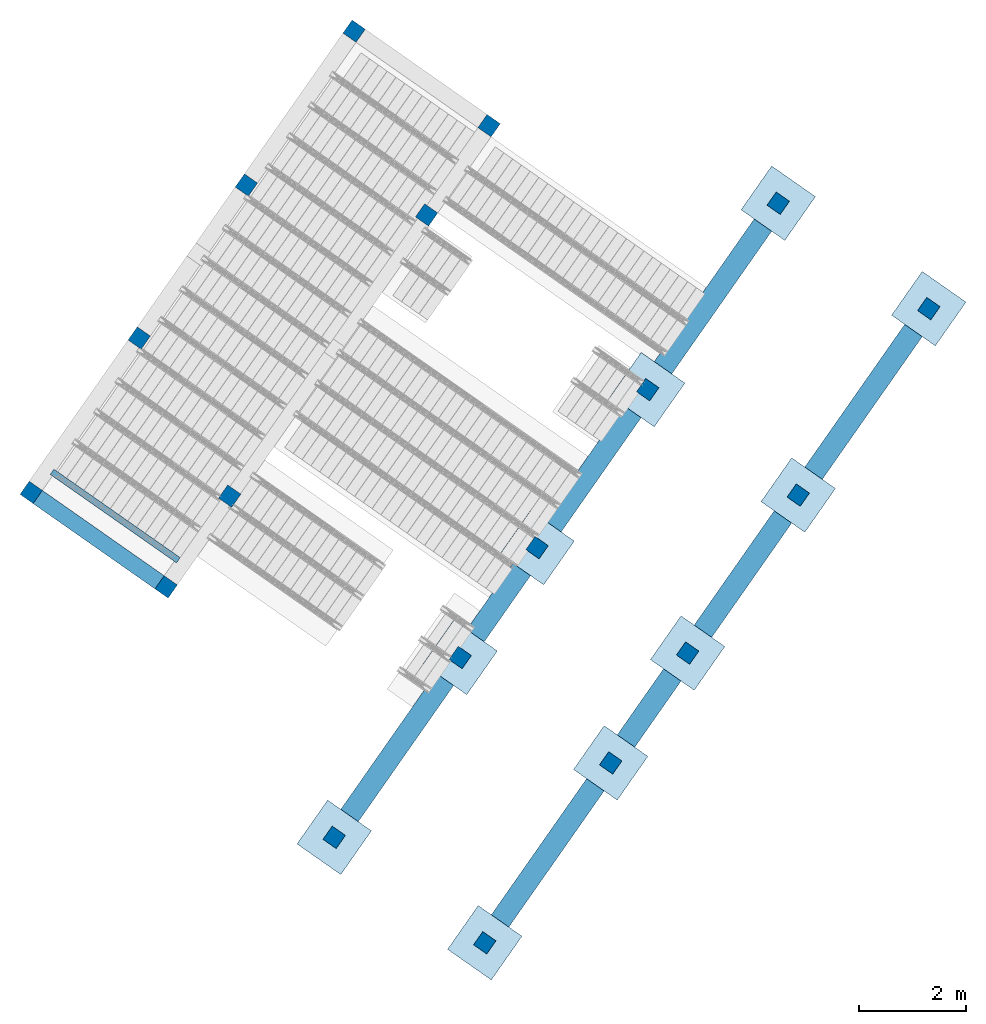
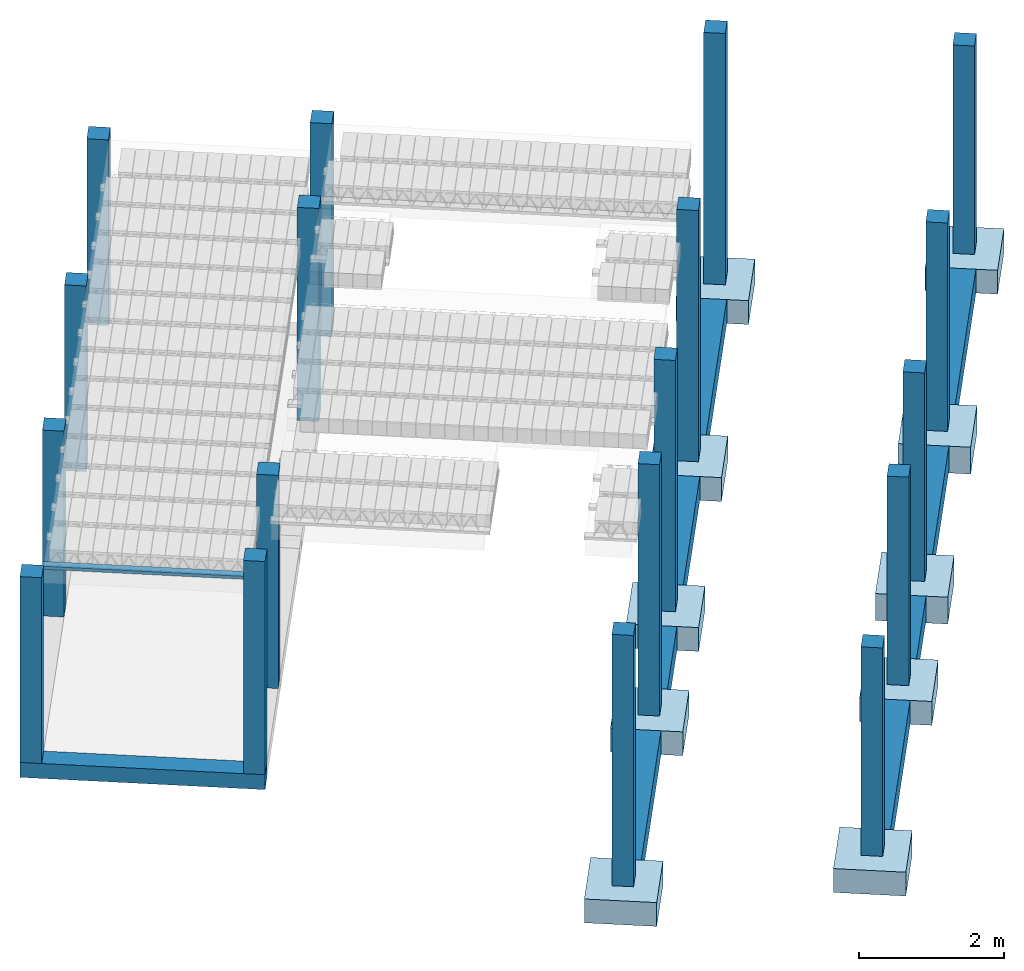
# One storey, part 1 of 80: 18 columns, 18 footings, 2 beams.
"""IFC2X3 building model written with IfcOpenShell, lengths in metres."""

import ifcopenshell
import ifcopenshell.guid

model = None  # the IFC model being written
_history = None  # IfcOwnerHistory: only IFC2X3 demands one
_inside = {}  # id of a spatial element -> (the spatial element, [elements in it])
_under = {}  # id of a project, library or spatial element -> (it, [spatial elements below it])
_declared = {}  # id of a project -> (the project, [libraries it declares])
_typed = {}  # id of a type object -> (the type object, [elements of that type])
_made_of = {}  # id of a material, layer set ... -> (it, [elements and type objects made of it])


def new_model(schema):
    """Start an empty IFC model of exactly this schema.

    Asked for "IFC4X3", IfcOpenShell would pick the latest addendum, in which some entities
    have other attributes; the version numbers below select the first issue.
    IFC2X3 requires an IfcOwnerHistory on every rooted entity: one is made here for all.
    """
    global model, _history
    if schema == "IFC4X3":
        model = ifcopenshell.file(schema_version=(4, 3, 0, 0))
    else:
        model = ifcopenshell.file(schema=schema)
    _inside.clear()
    _under.clear()
    _declared.clear()
    _typed.clear()
    _made_of.clear()
    _history = None
    if model.schema == "IFC2X3":
        org = make("IfcOrganization", Name="unknown")
        user = make(
            "IfcPersonAndOrganization",
            ThePerson=make("IfcPerson", FamilyName="unknown"),
            TheOrganization=org,
        )
        app = make(
            "IfcApplication",
            ApplicationDeveloper=org,
            Version="unknown",
            ApplicationFullName="unknown",
            ApplicationIdentifier="unknown",
        )
        _history = make(
            "IfcOwnerHistory",
            OwningUser=user,
            OwningApplication=app,
            ChangeAction="ADDED",
            CreationDate=0,
        )
    return model


def make(cls, **values):
    """One entity of the class cls with the attributes given. An attribute that is None is left unset."""
    return model.create_entity(
        cls, **{name: value for name, value in values.items() if value is not None}
    )


def entity(cls, *values):
    """Any entity or typed value of the class cls, its attributes in the order of the schema. None: left unset."""
    e = model.create_entity(cls)
    for i, value in enumerate(values):
        if value is not None:
            e[i] = value
    return e


def rooted(cls, **values):
    """An entity with a GlobalId (a new one), such as an element, a storey or a relation."""
    return make(cls, GlobalId=ifcopenshell.guid.new(), OwnerHistory=_history, **values)


def si_unit(unit_type, name, prefix=None):
    """IfcSIUnit, for example si_unit("LENGTHUNIT", "METRE", prefix="MILLI")."""
    return make("IfcSIUnit", UnitType=unit_type, Prefix=prefix, Name=name)


def converted_unit(unit_type, name, factor, base, dimensions=None, offset=None):
    """IfcConversionBasedUnit, such as the inch: factor (a typed value) times the base unit."""
    return make(
        "IfcConversionBasedUnit"
        if offset is None
        else "IfcConversionBasedUnitWithOffset",
        ConversionOffset=offset,
        Dimensions=None
        if dimensions is None
        else entity("IfcDimensionalExponents", *dimensions),
        UnitType=unit_type,
        Name=name,
        ConversionFactor=make(
            "IfcMeasureWithUnit", ValueComponent=factor, UnitComponent=base
        ),
    )


def derived_unit(unit_type, elements):
    """IfcDerivedUnit: a product of units, each with its exponent."""
    return make(
        "IfcDerivedUnit",
        Elements=[
            make("IfcDerivedUnitElement", Unit=unit, Exponent=power)
            for unit, power in elements
        ],
        UnitType=unit_type,
    )


def assignment(units):
    """IfcUnitAssignment: the units of a project."""
    return None if units is None else make("IfcUnitAssignment", Units=units)


def point(xyz):
    """IfcCartesianPoint."""
    return None if xyz is None else make("IfcCartesianPoint", Coordinates=xyz)


def direction(xyz):
    """IfcDirection."""
    return None if xyz is None else make("IfcDirection", DirectionRatios=xyz)


def frame(location, z_axis=None, x_axis=None):
    """IfcAxis2Placement3D, a coordinate frame: its origin and axes. An axis left out is left unset."""
    return make(
        "IfcAxis2Placement3D",
        Location=point(location),
        Axis=direction(z_axis),
        RefDirection=direction(x_axis),
    )


def frame_2d(location, x_axis=None):
    """IfcAxis2Placement2D, a coordinate frame in the plane: its origin and x axis."""
    return make(
        "IfcAxis2Placement2D", Location=point(location), RefDirection=direction(x_axis)
    )


def origin():
    """The frame at (0, 0, 0) with its axes left unset."""
    return frame((0.0, 0.0, 0.0))


def origin_2d_with_axis():
    """The frame at (0, 0) in the plane with the x axis (1, 0) written out."""
    return frame_2d((0.0, 0.0), x_axis=(1.0, 0.0))


def place(relative_to, where):
    """IfcLocalPlacement: puts the frame where relative to a parent placement (None: the world)."""
    return make(
        "IfcLocalPlacement", PlacementRelTo=relative_to, RelativePlacement=where
    )


def context(
    kind, dimensions, precision=None, world=None, true_north=None, identifier=None
):
    """IfcGeometricRepresentationContext, for example the 3D "Model" context."""
    return make(
        "IfcGeometricRepresentationContext",
        ContextIdentifier=identifier,
        ContextType=kind,
        CoordinateSpaceDimension=dimensions,
        Precision=precision,
        WorldCoordinateSystem=world,
        TrueNorth=true_north,
    )


def subcontext(parent, identifier, kind, view, scale=None):
    """IfcGeometricRepresentationSubContext, for example "Body" below "Model"."""
    return make(
        "IfcGeometricRepresentationSubContext",
        ContextIdentifier=identifier,
        ContextType=kind,
        ParentContext=parent,
        TargetScale=scale,
        TargetView=view,
    )


def project(units=None, contexts=None):
    """IfcProject with its units and contexts."""
    return rooted(
        "IfcProject",
        Name="project",
        RepresentationContexts=contexts,
        UnitsInContext=assignment(units),
    )


def spatial(cls, under=None, at=None, **own):
    """A site, building, storey or space (cls), placed at a placement, below another one or the project."""
    s = rooted(cls, ObjectPlacement=at, **own)
    if under is not None:
        _under.setdefault(under.id(), (under, []))[1].append(s)
    return s


def profile(cls, at=None, kind="AREA", **sizes):
    """A parametric profile (cls). Its sizes go by their IFC names, for example OverallWidth=200.0."""
    return make(cls, ProfileType=kind, Position=at, **sizes)


def rectangle(**sizes):
    """IfcRectangleProfileDef."""
    return profile("IfcRectangleProfileDef", **sizes)


def extrude(swept, where, along, depth):
    """IfcExtrudedAreaSolid: the profile swept, set in the frame where, extruded along a direction by depth."""
    return make(
        "IfcExtrudedAreaSolid",
        SweptArea=swept,
        Position=where,
        ExtrudedDirection=direction(along),
        Depth=depth,
    )


def shape(context_of_items, identifier, shape_type, items):
    """IfcShapeRepresentation: the items that make up one representation, for example the "Body"."""
    return make(
        "IfcShapeRepresentation",
        ContextOfItems=context_of_items,
        RepresentationIdentifier=identifier,
        RepresentationType=shape_type,
        Items=items,
    )


def material(Name=None, Category=None):
    """IfcMaterial."""
    return make("IfcMaterial", Name=Name, Category=Category)


def made_of(thing, what):
    """Note that an element or type object is made of a material, layer set ...; save() writes the relation."""
    if what is not None:
        _made_of.setdefault(what.id(), (what, []))[1].append(thing)
    return thing


def type_object(cls, material=None, **own):
    """A type object (cls), such as IfcWallType, which elements share."""
    return made_of(rooted(cls, **own), material)


def element(
    cls,
    number,
    at=None,
    inside=None,
    cuts=None,
    type_object=None,
    material=None,
    context=None,
    identifier="Body",
    shape_type=None,
    held_by="IfcProductDefinitionShape",
    body=None,
    shapes=None,
    **own,
):
    """One element of the class cls, such as IfcWall. Its Tag is "e" and its number.

    at: its placement. inside: the storey or other place that contains it. cuts: it is an
    opening in that element (IfcRelVoidsElement). A single representation is given by context,
    identifier, shape_type and body (its items); several are given by shapes. held_by: the class
    of the entity that holds the representations. save() writes the other relations.
    """
    e = rooted(cls, Tag="e%d" % number, ObjectPlacement=at, **own)
    if body is not None:
        shapes = [shape(context, identifier, shape_type, body)]
    if shapes is not None:
        e.Representation = make(held_by, Representations=shapes)
    if inside is not None:
        _inside.setdefault(inside.id(), (inside, []))[1].append(e)
    if cuts is not None:
        rooted(
            "IfcRelVoidsElement", RelatingBuildingElement=cuts, RelatedOpeningElement=e
        )
    if type_object is not None:
        _typed.setdefault(type_object.id(), (type_object, []))[1].append(e)
    return made_of(e, material)


def aggregate(whole, parts):
    """IfcRelAggregates: a whole, such as a stair, and the parts it consists of."""
    return rooted("IfcRelAggregates", RelatingObject=whole, RelatedObjects=parts)


def save(model, path):
    """Write the relations noted so far, then the file.

    IfcRelAggregates (storeys below a building ...), IfcRelContainedInSpatialStructure (elements
    in a storey), IfcRelDefinesByType, IfcRelAssociatesMaterial and IfcRelDeclares: one each for
    every whole, place, type object, material and project.
    """
    for whole, parts in _under.values():
        aggregate(whole, parts)
    for where, things in _inside.values():
        rooted(
            "IfcRelContainedInSpatialStructure",
            RelatedElements=things,
            RelatingStructure=where,
        )
    for kind, things in _typed.values():
        rooted("IfcRelDefinesByType", RelatedObjects=things, RelatingType=kind)
    for what, things in _made_of.values():
        rooted("IfcRelAssociatesMaterial", RelatedObjects=things, RelatingMaterial=what)
    for by, libraries in _declared.values():
        rooted("IfcRelDeclares", RelatingContext=by, RelatedDefinitions=libraries)
    model.write(path)


model = new_model("IFC2X3")

# Units and contexts
model_context = context("Model", 3, precision=1e-05, world=origin(), true_north=direction((6.123031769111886e-17, 1.0)))
body_context = subcontext(model_context, "Body", "Model", "MODEL_VIEW")
ifc_project = project(units=[si_unit("LENGTHUNIT", "METRE"), si_unit("AREAUNIT", "SQUARE_METRE"), si_unit("VOLUMEUNIT", "CUBIC_METRE"), converted_unit("PLANEANGLEUNIT", "DEGREE", entity("IfcPlaneAngleMeasure", 0.017453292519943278), si_unit("PLANEANGLEUNIT", "RADIAN"), dimensions=[0, 0, 0, 0, 0, 0, 0]), si_unit("MASSUNIT", "GRAM", prefix="KILO"), derived_unit("MASSDENSITYUNIT", [(si_unit("MASSUNIT", "GRAM", prefix="KILO"), 1), (si_unit("LENGTHUNIT", "METRE"), -3)]), derived_unit("IONCONCENTRATIONUNIT", [(si_unit("MASSUNIT", "GRAM", prefix="KILO"), 1), (si_unit("LENGTHUNIT", "METRE"), -3)]), derived_unit("MOMENTOFINERTIAUNIT", [(si_unit("LENGTHUNIT", "METRE"), 4)]), si_unit("TIMEUNIT", "SECOND"), si_unit("FREQUENCYUNIT", "HERTZ"), si_unit("THERMODYNAMICTEMPERATUREUNIT", "DEGREE_CELSIUS"), derived_unit("THERMALTRANSMITTANCEUNIT", [(si_unit("MASSUNIT", "GRAM", prefix="KILO"), 1), (si_unit("THERMODYNAMICTEMPERATUREUNIT", "KELVIN"), -1), (si_unit("TIMEUNIT", "SECOND"), -3)]), derived_unit("THERMALCONDUCTANCEUNIT", [(si_unit("MASSUNIT", "GRAM", prefix="KILO"), 1), (si_unit("THERMODYNAMICTEMPERATUREUNIT", "KELVIN"), -1), (si_unit("TIMEUNIT", "SECOND"), -3), (si_unit("LENGTHUNIT", "METRE"), 1)]), derived_unit("VOLUMETRICFLOWRATEUNIT", [(si_unit("LENGTHUNIT", "METRE", prefix="DECI"), 3), (si_unit("TIMEUNIT", "SECOND"), -1)]), derived_unit("MASSFLOWRATEUNIT", [(si_unit("MASSUNIT", "GRAM", prefix="KILO"), 1), (si_unit("TIMEUNIT", "SECOND"), -1)]), derived_unit("ROTATIONALFREQUENCYUNIT", [(si_unit("TIMEUNIT", "SECOND"), -1)]), si_unit("ELECTRICCURRENTUNIT", "AMPERE"), si_unit("ELECTRICVOLTAGEUNIT", "VOLT"), si_unit("POWERUNIT", "WATT"), si_unit("FORCEUNIT", "NEWTON", prefix="KILO"), si_unit("ILLUMINANCEUNIT", "LUX"), si_unit("LUMINOUSFLUXUNIT", "LUMEN"), si_unit("LUMINOUSINTENSITYUNIT", "CANDELA"), si_unit("ENERGYUNIT", "JOULE"), derived_unit("USERDEFINED", [(si_unit("MASSUNIT", "GRAM", prefix="KILO"), -1), (si_unit("LENGTHUNIT", "METRE"), -2), (si_unit("TIMEUNIT", "SECOND"), 3), (si_unit("LUMINOUSFLUXUNIT", "LUMEN"), 1)]), derived_unit("USERDEFINED", [(si_unit("MASSUNIT", "GRAM", prefix="KILO"), 1), (si_unit("TIMEUNIT", "SECOND"), -3), (si_unit("LENGTHUNIT", "METRE"), 3), (si_unit("ELECTRICCURRENTUNIT", "AMPERE"), -2)]), derived_unit("SOUNDPOWERUNIT", [(si_unit("MASSUNIT", "GRAM", prefix="KILO"), 1), (si_unit("TIMEUNIT", "SECOND"), -3), (si_unit("LENGTHUNIT", "METRE"), 2)]), derived_unit("SOUNDPRESSUREUNIT", [(si_unit("MASSUNIT", "GRAM", prefix="KILO"), 1), (si_unit("LENGTHUNIT", "METRE"), -1), (si_unit("TIMEUNIT", "SECOND"), -2)]), derived_unit("LINEARVELOCITYUNIT", [(si_unit("LENGTHUNIT", "METRE"), 1), (si_unit("TIMEUNIT", "SECOND"), -1)]), si_unit("PRESSUREUNIT", "PASCAL"), derived_unit("USERDEFINED", [(si_unit("MASSUNIT", "GRAM", prefix="KILO"), 1), (si_unit("LENGTHUNIT", "METRE"), -2), (si_unit("TIMEUNIT", "SECOND"), -2)]), derived_unit("LINEARFORCEUNIT", [(si_unit("MASSUNIT", "GRAM", prefix="KILO"), 1), (si_unit("TIMEUNIT", "SECOND"), -2)]), derived_unit("PLANARFORCEUNIT", [(si_unit("MASSUNIT", "GRAM", prefix="KILO"), 1), (si_unit("LENGTHUNIT", "METRE"), -1), (si_unit("TIMEUNIT", "SECOND"), -2)]), derived_unit("SPECIFICHEATCAPACITYUNIT", [(si_unit("THERMODYNAMICTEMPERATUREUNIT", "KELVIN"), -1), (si_unit("LENGTHUNIT", "METRE"), 2), (si_unit("TIMEUNIT", "SECOND"), -2)]), derived_unit("HEATFLUXDENSITYUNIT", [(si_unit("MASSUNIT", "GRAM", prefix="KILO"), 1), (si_unit("TIMEUNIT", "SECOND"), -3)]), derived_unit("HEATINGVALUEUNIT", [(si_unit("LENGTHUNIT", "METRE"), 2), (si_unit("TIMEUNIT", "SECOND"), -2)]), derived_unit("VAPORPERMEABILITYUNIT", [(si_unit("LENGTHUNIT", "METRE"), -1), (si_unit("TIMEUNIT", "SECOND"), 1)]), derived_unit("DYNAMICVISCOSITYUNIT", [(si_unit("MASSUNIT", "GRAM", prefix="KILO"), 1), (si_unit("TIMEUNIT", "SECOND"), -1), (si_unit("LENGTHUNIT", "METRE"), -1)]), derived_unit("THERMALEXPANSIONCOEFFICIENTUNIT", [(si_unit("THERMODYNAMICTEMPERATUREUNIT", "KELVIN"), -1)]), derived_unit("MODULUSOFELASTICITYUNIT", [(si_unit("MASSUNIT", "GRAM", prefix="KILO"), 1), (si_unit("LENGTHUNIT", "METRE"), -1), (si_unit("TIMEUNIT", "SECOND"), -2)]), derived_unit("ISOTHERMALMOISTURECAPACITYUNIT", [(si_unit("MASSUNIT", "GRAM", prefix="KILO"), -1), (si_unit("LENGTHUNIT", "METRE"), 3)]), derived_unit("MOISTUREDIFFUSIVITYUNIT", [(si_unit("TIMEUNIT", "SECOND"), -1), (si_unit("LENGTHUNIT", "METRE"), 2)]), derived_unit("MASSPERLENGTHUNIT", [(si_unit("MASSUNIT", "GRAM", prefix="KILO"), 1), (si_unit("LENGTHUNIT", "METRE"), -1)]), derived_unit("THERMALRESISTANCEUNIT", [(si_unit("MASSUNIT", "GRAM", prefix="KILO"), -1), (si_unit("TIMEUNIT", "SECOND"), 3), (si_unit("THERMODYNAMICTEMPERATUREUNIT", "KELVIN"), 1)]), derived_unit("ACCELERATIONUNIT", [(si_unit("LENGTHUNIT", "METRE"), 1), (si_unit("TIMEUNIT", "SECOND"), -2)]), derived_unit("ANGULARVELOCITYUNIT", [(si_unit("TIMEUNIT", "SECOND"), -1), (si_unit("PLANEANGLEUNIT", "RADIAN"), 1)]), derived_unit("LINEARSTIFFNESSUNIT", [(si_unit("MASSUNIT", "GRAM", prefix="KILO"), 1), (si_unit("TIMEUNIT", "SECOND"), -2)]), derived_unit("WARPINGCONSTANTUNIT", [(si_unit("LENGTHUNIT", "METRE"), 6)]), derived_unit("LINEARMOMENTUNIT", [(si_unit("MASSUNIT", "GRAM", prefix="KILO"), 1), (si_unit("LENGTHUNIT", "METRE"), 1), (si_unit("TIMEUNIT", "SECOND"), -2)]), derived_unit("TORQUEUNIT", [(si_unit("MASSUNIT", "GRAM", prefix="KILO"), 1), (si_unit("LENGTHUNIT", "METRE"), 2), (si_unit("TIMEUNIT", "SECOND"), -2)])], contexts=[model_context])

# Site, building, storey
site_placement = place(None, origin())
site = spatial("IfcSite", under=ifc_project, at=site_placement, Name="Default", CompositionType="ELEMENT")
building_placement = place(site_placement, origin())
building = spatial("IfcBuilding", under=site, at=building_placement, CompositionType="ELEMENT")
storey_placement = place(building_placement, frame((0.0, 0.0, 95.94)))
storey = spatial("IfcBuildingStorey", under=building, at=storey_placement, Name="PB", CompositionType="ELEMENT", Elevation=95.94)

# Footings
type_product_1 = type_object("IfcTypeProduct", Name="P6 (100 x 100 x 40)")
footing_1_placement = place(storey_placement, origin())
element("IfcFooting", 1, at=footing_1_placement, inside=storey, type_object=type_product_1, Name="P6 (100 x 100 x 40)", ObjectType="100 x 100 x 40", PredefinedType="PAD_FOOTING", context=body_context, shape_type="SweptSolid", body=[
    extrude(rectangle(XDim=0.9999999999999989, YDim=1.0000000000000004, at=frame_2d((2.7755575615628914e-17, -5.551115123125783e-17), x_axis=(1.0, 0.0))), frame((6.457862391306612, -0.7566697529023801, -0.5399999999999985), z_axis=(0.0, 0.0, 1.0), x_axis=(-0.8191520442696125, 0.5735764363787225, 0.0)), (0.0, 0.0, 1.0), 0.3999999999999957),
])
type_product_2 = type_object("IfcTypeProduct", Name="P10 (100 x 100 x 40)")
footing_2_placement = place(storey_placement, origin())
element("IfcFooting", 2, at=footing_2_placement, inside=storey, type_object=type_product_2, Name="P10 (100 x 100 x 40)", ObjectType="100 x 100 x 40", PredefinedType="PAD_FOOTING", context=body_context, shape_type="SweptSolid", body=[
    extrude(rectangle(XDim=0.9999999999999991, YDim=0.9999999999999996, at=origin_2d_with_axis()), frame((7.8975574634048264, 1.2994278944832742, -0.5399999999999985), z_axis=(0.0, 0.0, 1.0), x_axis=(-0.8191520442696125, 0.5735764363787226, 0.0)), (0.0, 0.0, 1.0), 0.3999999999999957),
])
type_product_3 = type_object("IfcTypeProduct", Name="P13 (100 x 100 x 40)")
footing_3_placement = place(storey_placement, origin())
element("IfcFooting", 3, at=footing_3_placement, inside=storey, type_object=type_product_3, Name="P13 (100 x 100 x 40)", ObjectType="100 x 100 x 40", PredefinedType="PAD_FOOTING", context=body_context, shape_type="SweptSolid", body=[
    extrude(rectangle(XDim=1.000000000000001, YDim=1.0000000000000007, at=frame_2d((-5.828670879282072e-16, -1.1102230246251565e-16), x_axis=(1.0, 0.0))), frame((9.968168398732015, 4.256566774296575, -0.5399999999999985), z_axis=(0.0, 0.0, 1.0), x_axis=(-0.8191520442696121, 0.5735764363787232, 0.0)), (0.0, 0.0, 1.0), 0.3999999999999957),
])
type_product_4 = type_object("IfcTypeProduct", Name="P1 (100 x 100 x 40)")
footing_4_placement = place(storey_placement, origin())
element("IfcFooting", 4, at=footing_4_placement, inside=storey, type_object=type_product_4, Name="P1 (100 x 100 x 40)", ObjectType="100 x 100 x 40", PredefinedType="PAD_FOOTING", context=body_context, shape_type="SweptSolid", body=[
    extrude(rectangle(XDim=0.9999999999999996, YDim=0.9999999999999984, at=origin_2d_with_axis()), frame((6.918364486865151, -6.096461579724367, 0.17999999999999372), z_axis=(0.0, 0.0, 1.0), x_axis=(-0.8191520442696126, 0.5735764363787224, 0.0)), (0.0, 0.0, 1.0), 0.3999999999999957),
])
type_product_5 = type_object("IfcTypeProduct", Name="P2 (100 x 100 x 40)")
footing_5_placement = place(storey_placement, origin())
element("IfcFooting", 5, at=footing_5_placement, inside=storey, type_object=type_product_5, Name="P2 (100 x 100 x 40)", ObjectType="100 x 100 x 40", PredefinedType="PAD_FOOTING", context=body_context, shape_type="SweptSolid", body=[
    extrude(rectangle(XDim=0.9999999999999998, YDim=0.9999999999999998, at=origin_2d_with_axis()), frame((4.100481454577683, -4.123358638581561, -0.5399999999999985), z_axis=(0.0, 0.0, 1.0), x_axis=(-0.8191520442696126, 0.5735764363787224, 0.0)), (0.0, 0.0, 1.0), 0.3999999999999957),
])
type_product_6 = type_object("IfcTypeProduct", Name="P5 (100 x 100 x 40)")
footing_6_placement = place(storey_placement, origin())
element("IfcFooting", 6, at=footing_6_placement, inside=storey, type_object=type_product_6, Name="P5 (100 x 100 x 40)", ObjectType="100 x 100 x 40", PredefinedType="PAD_FOOTING", context=body_context, shape_type="SweptSolid", body=[
    extrude(rectangle(XDim=1.0, YDim=1.0000000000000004, at=origin_2d_with_axis()), frame((9.275745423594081, -2.729772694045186, 0.17999999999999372), z_axis=(0.0, 0.0, 1.0), x_axis=(-0.8191520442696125, 0.5735764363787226, 0.0)), (0.0, 0.0, 1.0), 0.3999999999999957),
])
type_product_7 = type_object("IfcTypeProduct", Name="P9 (100 x 100 x 45)")
footing_7_placement = place(storey_placement, origin())
element("IfcFooting", 7, at=footing_7_placement, inside=storey, type_object=type_product_7, Name="P9 (100 x 100 x 45)", ObjectType="100 x 100 x 45", PredefinedType="PAD_FOOTING", context=body_context, shape_type="SweptSolid", body=[
    extrude(rectangle(XDim=1.0000000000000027, YDim=0.9999999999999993, at=frame_2d((5.551115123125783e-17, -5.551115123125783e-17), x_axis=(1.0, 0.0))), frame((10.715440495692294, -0.6736750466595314, 0.1300000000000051), z_axis=(0.0, 0.0, 1.0), x_axis=(-0.819152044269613, 0.5735764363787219, 0.0)), (0.0, 0.0, 1.0), 0.4500000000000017),
])
type_product_8 = type_object("IfcTypeProduct", Name="P12 (100 x 100 x 45)")
footing_8_placement = place(storey_placement, origin())
element("IfcFooting", 8, at=footing_8_placement, inside=storey, type_object=type_product_8, Name="P12 (100 x 100 x 45)", ObjectType="100 x 100 x 45", PredefinedType="PAD_FOOTING", context=body_context, shape_type="SweptSolid", body=[
    extrude(rectangle(XDim=1.0000000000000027, YDim=0.9999999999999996, at=origin_2d_with_axis()), frame((12.786051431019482, 2.2834638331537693, 0.1300000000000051), z_axis=(0.0, 0.0, 1.0), x_axis=(-0.8191520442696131, 0.5735764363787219, 0.0)), (0.0, 0.0, 1.0), 0.45000000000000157),
])
type_product_9 = type_object("IfcTypeProduct", Name="P17 (100 x 100 x 40)")
footing_9_placement = place(storey_placement, origin())
element("IfcFooting", 9, at=footing_9_placement, inside=storey, type_object=type_product_9, Name="P17 (100 x 100 x 40)", ObjectType="100 x 100 x 40", PredefinedType="PAD_FOOTING", context=body_context, shape_type="SweptSolid", body=[
    extrude(rectangle(XDim=1.0000000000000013, YDim=0.9999999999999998, at=origin_2d_with_axis()), frame((15.229487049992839, 5.773051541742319, 0.17999999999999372), z_axis=(0.0, 0.0, 1.0), x_axis=(-0.8191520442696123, 0.5735764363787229, 0.0)), (0.0, 0.0, 1.0), 0.3999999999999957),
])
type_product_10 = type_object("IfcTypeProduct", Name="P18 (100 x 100 x 40)")
footing_10_placement = place(storey_placement, origin())
element("IfcFooting", 10, at=footing_10_placement, inside=storey, type_object=type_product_10, Name="P18 (100 x 100 x 40)", ObjectType="100 x 100 x 40", PredefinedType="PAD_FOOTING", context=body_context, shape_type="SweptSolid", body=[
    extrude(rectangle(XDim=1.0000000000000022, YDim=0.9999999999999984, at=origin_2d_with_axis()), frame((12.411604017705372, 7.7461544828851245, -0.5399999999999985), z_axis=(0.0, 0.0, 1.0), x_axis=(-0.8191520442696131, 0.5735764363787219, 0.0)), (0.0, 0.0, 1.0), 0.3999999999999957),
])
type_product_11 = type_object("IfcTypeProduct", Name="Viga 10 (40x40)")
footing_11_placement = place(storey_placement, origin())
element("IfcFooting", 11, at=footing_11_placement, inside=storey, type_object=type_product_11, Name="Viga 10 (40x40)", ObjectType="40x40", PredefinedType="FOOTING_BEAM", context=body_context, shape_type="SweptSolid", body=[
    extrude(rectangle(XDim=3.1099682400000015, YDim=0.3999999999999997, at=frame_2d((-3.3306690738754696e-16, 4.440892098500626e-16), x_axis=(1.0, 0.0))), frame((8.097054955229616, -4.413117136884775, 0.17999999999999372), z_axis=(0.0, 0.0, 1.0), x_axis=(0.5735764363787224, 0.8191520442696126, 0.0)), (0.0, 0.0, 1.0), 0.400000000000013),
])
type_product_12 = type_object("IfcTypeProduct", Name="Viga 11 (40x40)")
footing_12_placement = place(storey_placement, origin())
element("IfcFooting", 12, at=footing_12_placement, inside=storey, type_object=type_product_12, Name="Viga 11 (40x40)", ObjectType="40x40", PredefinedType="FOOTING_BEAM", context=body_context, shape_type="SweptSolid", body=[
    extrude(rectangle(XDim=1.5100317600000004, YDim=0.4, at=frame_2d((5.551115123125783e-16, -3.608224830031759e-16), x_axis=(1.0, 0.0))), frame((9.995592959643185, -1.7017238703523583, 0.17999999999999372), z_axis=(0.0, 0.0, 1.0), x_axis=(0.573576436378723, 0.8191520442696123, 0.0)), (0.0, 0.0, 1.0), 0.40000000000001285),
])
type_product_13 = type_object("IfcTypeProduct", Name="Viga 12 (40x40)")
footing_13_placement = place(storey_placement, origin())
element("IfcFooting", 13, at=footing_13_placement, inside=storey, type_object=type_product_13, Name="Viga 12 (40x40)", ObjectType="40x40", PredefinedType="FOOTING_BEAM", context=body_context, shape_type="SweptSolid", body=[
    extrude(rectangle(XDim=2.610000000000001, YDim=0.40000000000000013, at=frame_2d((-4.440892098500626e-16, 1.0547118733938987e-15), x_axis=(1.0, 0.0))), frame((11.750745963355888, 0.8048943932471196, 0.17999999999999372), z_axis=(0.0, 0.0, 1.0), x_axis=(0.5735764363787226, 0.8191520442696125, 0.0)), (0.0, 0.0, 1.0), 0.40000000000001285),
])
type_product_14 = type_object("IfcTypeProduct", Name="Viga 13 (40x40)")
footing_14_placement = place(storey_placement, origin())
element("IfcFooting", 14, at=footing_14_placement, inside=storey, type_object=type_product_14, Name="Viga 13 (40x40)", ObjectType="40x40", PredefinedType="FOOTING_BEAM", context=body_context, shape_type="SweptSolid", body=[
    extrude(rectangle(XDim=3.2600000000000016, YDim=0.39999999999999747, at=frame_2d((-6.661338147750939e-16, 2.1649348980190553e-15), x_axis=(1.0, 0.0))), frame((14.007769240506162, 4.028257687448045, 0.17999999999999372), z_axis=(0.0, 0.0, 1.0), x_axis=(0.5735764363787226, 0.8191520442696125, 0.0)), (0.0, 0.0, 1.0), 0.40000000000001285),
])
type_product_15 = type_object("IfcTypeProduct", Name="Viga 15 (40x40)")
footing_15_placement = place(storey_placement, origin())
element("IfcFooting", 15, at=footing_15_placement, inside=storey, type_object=type_product_15, Name="Viga 15 (40x40)", ObjectType="40x40", PredefinedType="FOOTING_BEAM", context=body_context, shape_type="SweptSolid", body=[
    extrude(rectangle(XDim=3.2600000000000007, YDim=0.40000000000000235, at=frame_2d((4.440892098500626e-16, -8.743006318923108e-16), x_axis=(1.0, 0.0))), frame((11.189886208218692, 6.0013606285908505, -0.5400000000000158), z_axis=(0.0, 0.0, 1.0), x_axis=(0.5735764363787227, 0.8191520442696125, 0.0)), (0.0, 0.0, 1.0), 0.40000000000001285),
])
type_product_16 = type_object("IfcTypeProduct", Name="Viga 16 (40x40)")
footing_16_placement = place(storey_placement, origin())
element("IfcFooting", 16, at=footing_16_placement, inside=storey, type_object=type_product_16, Name="Viga 16 (40x40)", ObjectType="40x40", PredefinedType="FOOTING_BEAM", context=body_context, shape_type="SweptSolid", body=[
    extrude(rectangle(XDim=2.6100000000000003, YDim=0.39999999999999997, at=frame_2d((3.3306690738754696e-16, 2.0816681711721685e-16), x_axis=(1.0, 0.0))), frame((8.932862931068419, 2.777997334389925, -0.5400000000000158), z_axis=(0.0, 0.0, 1.0), x_axis=(0.5735764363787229, 0.8191520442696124, 0.0)), (0.0, 0.0, 1.0), 0.4000000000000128),
])
type_product_17 = type_object("IfcTypeProduct", Name="Viga 17 (40x40)")
footing_17_placement = place(storey_placement, origin())
element("IfcFooting", 17, at=footing_17_placement, inside=storey, type_object=type_product_17, Name="Viga 17 (40x40)", ObjectType="40x40", PredefinedType="FOOTING_BEAM", context=body_context, shape_type="SweptSolid", body=[
    extrude(rectangle(XDim=1.5100317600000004, YDim=0.4, at=frame_2d((-2.7755575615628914e-16, 4.440892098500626e-16), x_axis=(1.0, 0.0))), frame((7.1777099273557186, 0.27137907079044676, -0.5400000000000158), z_axis=(0.0, 0.0, 1.0), x_axis=(0.5735764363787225, 0.8191520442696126, 0.0)), (0.0, 0.0, 1.0), 0.400000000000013),
])
type_product_18 = type_object("IfcTypeProduct", Name="Viga 18 (40x40)")
footing_18_placement = place(storey_placement, origin())
element("IfcFooting", 18, at=footing_18_placement, inside=storey, type_object=type_product_18, Name="Viga 18 (40x40)", ObjectType="40x40", PredefinedType="FOOTING_BEAM", context=body_context, shape_type="SweptSolid", body=[
    extrude(rectangle(XDim=3.1099682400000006, YDim=0.3999999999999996, at=frame_2d((3.3306690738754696e-16, 2.7755575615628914e-17), x_axis=(1.0, 0.0))), frame((5.279171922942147, -2.44001419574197, -0.5400000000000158), z_axis=(0.0, 0.0, 1.0), x_axis=(0.5735764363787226, 0.8191520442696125, 0.0)), (0.0, 0.0, 1.0), 0.400000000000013),
])

# Columns
column_type = type_object("IfcColumnType", Name="Forma directa:DirectShapeType 3937", PredefinedType="NOTDEFINED")
column_1_placement = place(storey_placement, origin())
element("IfcColumn", 19, at=column_1_placement, inside=storey, type_object=column_type, Name="P1 (30x30)", ObjectType="30x30", context=body_context, shape_type="SweptSolid", body=[
    extrude(rectangle(XDim=0.29999999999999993, YDim=0.3, at=origin_2d_with_axis()), frame((6.918364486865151, -6.096461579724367, 0.5800000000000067), z_axis=(0.0, 0.0, 1.0), x_axis=(-0.8191520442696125, 0.5735764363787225, 0.0)), (0.0, 0.0, 1.0), 3.5000000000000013),
])
column_2_placement = place(storey_placement, origin())
element("IfcColumn", 20, at=column_2_placement, inside=storey, type_object=column_type, Name="P2 (30x30)", ObjectType="30x30", context=body_context, shape_type="SweptSolid", body=[
    extrude(rectangle(XDim=0.30000000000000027, YDim=0.30000000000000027, at=origin_2d_with_axis()), frame((4.100481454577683, -4.123358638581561, -0.14000000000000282), z_axis=(0.0, 0.0, 1.0), x_axis=(-0.8191520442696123, 0.5735764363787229, 0.0)), (0.0, 0.0, 1.0), 4.2199999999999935),
])
column_3_placement = place(storey_placement, origin())
element("IfcColumn", 21, at=column_3_placement, inside=storey, type_object=column_type, Name="P5 (30x30)", ObjectType="30x30", context=body_context, shape_type="SweptSolid", body=[
    extrude(rectangle(XDim=0.2999999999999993, YDim=0.3000000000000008, at=origin_2d_with_axis()), frame((9.275745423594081, -2.729772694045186, 0.5800000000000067), z_axis=(0.0, 0.0, 1.0), x_axis=(-0.8191520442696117, 0.5735764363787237, 0.0)), (0.0, 0.0, 1.0), 3.5000000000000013),
])
column_4_placement = place(storey_placement, origin())
element("IfcColumn", 22, at=column_4_placement, inside=storey, type_object=column_type, Name="P6 (30x30)", ObjectType="30x30", context=body_context, shape_type="SweptSolid", body=[
    extrude(rectangle(XDim=0.2999999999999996, YDim=0.3000000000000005, at=origin_2d_with_axis()), frame((6.457862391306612, -0.7566697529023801, -0.14000000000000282), z_axis=(0.0, 0.0, 1.0), x_axis=(-0.819152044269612, 0.5735764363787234, 0.0)), (0.0, 0.0, 1.0), 4.2199999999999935),
])
column_5_placement = place(storey_placement, origin())
element("IfcColumn", 23, at=column_5_placement, inside=storey, type_object=column_type, Name="P9 (30x30)", ObjectType="30x30", context=body_context, shape_type="SweptSolid", body=[
    extrude(rectangle(XDim=0.29999999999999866, YDim=0.2999999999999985, at=frame_2d((4.163336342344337e-17, -5.551115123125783e-17), x_axis=(1.0, 0.0))), frame((10.715440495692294, -0.6736750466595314, 0.5800000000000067), z_axis=(0.0, 0.0, 1.0), x_axis=(-0.8191520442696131, 0.5735764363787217, 0.0)), (0.0, 0.0, 1.0), 3.5000000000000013),
])
column_6_placement = place(storey_placement, origin())
element("IfcColumn", 24, at=column_6_placement, inside=storey, type_object=column_type, Name="P10 (30x30)", ObjectType="30x30", context=body_context, shape_type="SweptSolid", body=[
    extrude(rectangle(XDim=0.2999999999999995, YDim=0.3000000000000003, at=origin_2d_with_axis()), frame((7.8975574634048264, 1.2994278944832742, -0.14000000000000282), z_axis=(0.0, 0.0, 1.0), x_axis=(-0.8191520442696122, 0.5735764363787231, 0.0)), (0.0, 0.0, 1.0), 4.219999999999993),
])
column_7_placement = place(storey_placement, origin())
element("IfcColumn", 25, at=column_7_placement, inside=storey, type_object=column_type, Name="P12 (30x30)", ObjectType="30x30", context=body_context, shape_type="SweptSolid", body=[
    extrude(rectangle(XDim=0.2999999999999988, YDim=0.2999999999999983, at=origin_2d_with_axis()), frame((12.786051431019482, 2.2834638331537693, 0.5800000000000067), z_axis=(0.0, 0.0, 1.0), x_axis=(-0.819152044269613, 0.573576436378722, 0.0)), (0.0, 0.0, 1.0), 3.5000000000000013),
])
column_8_placement = place(storey_placement, origin())
element("IfcColumn", 26, at=column_8_placement, inside=storey, type_object=column_type, Name="P13 (30x30)", ObjectType="30x30", context=body_context, shape_type="SweptSolid", body=[
    extrude(rectangle(XDim=0.2999999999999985, YDim=0.29999999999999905, at=origin_2d_with_axis()), frame((9.968168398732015, 4.256566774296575, -0.14000000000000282), z_axis=(0.0, 0.0, 1.0), x_axis=(-0.819152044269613, 0.573576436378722, 0.0)), (0.0, 0.0, 1.0), 4.219999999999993),
])
column_9_placement = place(storey_placement, origin())
element("IfcColumn", 27, at=column_9_placement, inside=storey, type_object=column_type, Name="P17 (30x30)", ObjectType="30x30", context=body_context, shape_type="SweptSolid", body=[
    extrude(rectangle(XDim=0.29999999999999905, YDim=0.29999999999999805, at=origin_2d_with_axis()), frame((15.229487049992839, 5.773051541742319, 0.5800000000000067), z_axis=(0.0, 0.0, 1.0), x_axis=(-0.8191520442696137, 0.5735764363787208, 0.0)), (0.0, 0.0, 1.0), 3.5000000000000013),
])
column_10_placement = place(storey_placement, origin())
element("IfcColumn", 28, at=column_10_placement, inside=storey, type_object=column_type, Name="P18 (30x30)", ObjectType="30x30", context=body_context, shape_type="SweptSolid", body=[
    extrude(rectangle(XDim=0.29999999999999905, YDim=0.29999999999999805, at=origin_2d_with_axis()), frame((12.411604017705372, 7.7461544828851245, -0.14000000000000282), z_axis=(0.0, 0.0, 1.0), x_axis=(-0.8191520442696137, 0.5735764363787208, 0.0)), (0.0, 0.0, 1.0), 4.2199999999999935),
])
column_11_placement = place(storey_placement, origin())
element("IfcColumn", 29, at=column_11_placement, inside=storey, type_object=column_type, Name="P15 (30x30)", ObjectType="30x30", context=body_context, shape_type="SweptSolid", body=[
    extrude(rectangle(XDim=0.29999999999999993, YDim=0.3, at=origin_2d_with_axis()), frame((6.999915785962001, 9.197676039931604, 0.0), z_axis=(0.0, 0.0, 1.0), x_axis=(-0.8191520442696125, 0.5735764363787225, 0.0)), (0.0, 0.0, 1.0), 3.5800000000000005),
])
column_12_placement = place(storey_placement, origin())
element("IfcColumn", 30, at=column_12_placement, inside=storey, type_object=column_type, Name="P14 (30x30)", ObjectType="30x30", context=body_context, shape_type="SweptSolid", body=[
    extrude(rectangle(XDim=0.29999999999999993, YDim=0.3, at=origin_2d_with_axis()), frame((5.829801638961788, 7.5265798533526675, 0.0), z_axis=(0.0, 0.0, 1.0), x_axis=(-0.8191520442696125, 0.5735764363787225, 0.0)), (0.0, 0.0, 1.0), 3.5800000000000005),
])
column_13_placement = place(storey_placement, origin())
element("IfcColumn", 31, at=column_13_placement, inside=storey, type_object=column_type, Name="P16 (30x30)", ObjectType="30x30", context=body_context, shape_type="SweptSolid", body=[
    extrude(rectangle(XDim=0.299999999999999, YDim=0.29999999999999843, at=frame_2d((4.440892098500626e-16, 3.0531133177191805e-16), x_axis=(1.0, 0.0))), frame((4.47328345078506, 10.966843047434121, 0.0), z_axis=(0.0, 0.0, 1.0), x_axis=(-0.8191520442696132, 0.5735764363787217, 0.0)), (0.0, 0.0, 1.0), 3.120000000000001),
])
column_14_placement = place(storey_placement, origin())
element("IfcColumn", 32, at=column_14_placement, inside=storey, type_object=column_type, Name="P11 (30x30)", ObjectType="30x30", context=body_context, shape_type="SweptSolid", body=[
    extrude(rectangle(XDim=0.3000000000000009, YDim=0.29999999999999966, at=frame_2d((-5.412337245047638e-16, -3.885780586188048e-16), x_axis=(1.0, 0.0))), frame((2.4565034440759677, 8.086582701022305, 0.0), z_axis=(0.0, 0.0, 1.0), x_axis=(-0.8191520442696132, 0.5735764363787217, 0.0)), (0.0, 0.0, 1.0), 3.120000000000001),
])
column_15_placement = place(storey_placement, origin())
element("IfcColumn", 33, at=column_15_placement, inside=storey, type_object=column_type, Name="P8 (30x30)", ObjectType="30x30", context=body_context, shape_type="SweptSolid", body=[
    extrude(rectangle(XDim=0.30000000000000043, YDim=0.2999999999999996, at=frame_2d((-5.551115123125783e-17, -2.7755575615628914e-17), x_axis=(1.0, 0.0))), frame((0.4512362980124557, 5.222764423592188, 0.0), z_axis=(0.0, 0.0, 1.0), x_axis=(-0.8191520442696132, 0.5735764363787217, 0.0)), (0.0, 0.0, 1.0), 3.120000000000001),
])
column_16_placement = place(storey_placement, origin())
element("IfcColumn", 34, at=column_16_placement, inside=storey, type_object=column_type, Name="P7 (30x30)", ObjectType="30x30", context=body_context, shape_type="SweptSolid", body=[
    extrude(rectangle(XDim=0.2999999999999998, YDim=0.2999999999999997, at=origin_2d_with_axis()), frame((2.144573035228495, 2.263527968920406, 0.0), z_axis=(0.0, 0.0, 1.0), x_axis=(-0.8191520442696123, 0.5735764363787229, 0.0)), (0.0, 0.0, 1.0), 3.5800000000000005),
])
column_17_placement = place(storey_placement, origin())
element("IfcColumn", 35, at=column_17_placement, inside=storey, type_object=column_type, Name="P3 (30x30)", ObjectType="30x30", context=body_context, shape_type="SweptSolid", body=[
    extrude(rectangle(XDim=0.30000000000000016, YDim=0.30000000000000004, at=frame_2d((-4.163336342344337e-17, 6.938893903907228e-17), x_axis=(1.0, 0.0))), frame((0.954876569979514, 0.5644653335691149, 0.0), z_axis=(0.0, 0.0, 1.0), x_axis=(-0.8191520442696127, 0.5735764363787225, 0.0)), (0.0, 0.0, 1.0), 3.5799999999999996),
])
column_18_placement = place(storey_placement, origin())
element("IfcColumn", 36, at=column_18_placement, inside=storey, type_object=column_type, Name="P4 (30x30)", ObjectType="30x30", context=body_context, shape_type="SweptSolid", body=[
    extrude(rectangle(XDim=0.2999999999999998, YDim=0.2999999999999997, at=origin_2d_with_axis()), frame((-1.5717557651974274, 2.333632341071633, 0.0), z_axis=(0.0, 0.0, 1.0), x_axis=(-0.8191520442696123, 0.5735764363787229, 0.0)), (0.0, 0.0, 1.0), 3.120000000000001),
])

# Beams
ifc_material = material(Name="Hormigón armado")
beam_1_placement = place(storey_placement, origin())
element("IfcBeam", 37, at=beam_1_placement, inside=storey, material=ifc_material, Name="Viga 5 (30x25)", ObjectType="30x25", context=body_context, shape_type="SweptSolid", body=[
    extrude(rectangle(XDim=0.2500000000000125, YDim=0.2999999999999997, at=frame_2d((0.0, 1.942890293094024e-16), x_axis=(1.0, 0.0))), frame((-1.6946285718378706, 2.4196688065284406, -0.12500000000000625), z_axis=(0.8191520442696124, -0.5735764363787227, 0.0), x_axis=(0.0, 0.0, 1.0)), (0.0, 0.0, 1.0), 3.384448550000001),
])
beam_2_placement = place(storey_placement, origin())
element("IfcBeam", 38, at=beam_2_placement, inside=storey, material=ifc_material, Name="237957", context=body_context, shape_type="SweptSolid", body=[
    extrude(rectangle(XDim=0.04999999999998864, YDim=0.12000000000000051, at=frame_2d((1.7324683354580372e-14, 0.0), x_axis=(1.0, 0.0))), frame((-1.1802629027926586, 2.718974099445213, 2.8450000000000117), z_axis=(0.819152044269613, -0.5735764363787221, 0.0), x_axis=(0.0, 0.0, -1.0)), (0.0, 0.0, 1.0), 2.884779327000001),
])

save(model, "model.ifc")
